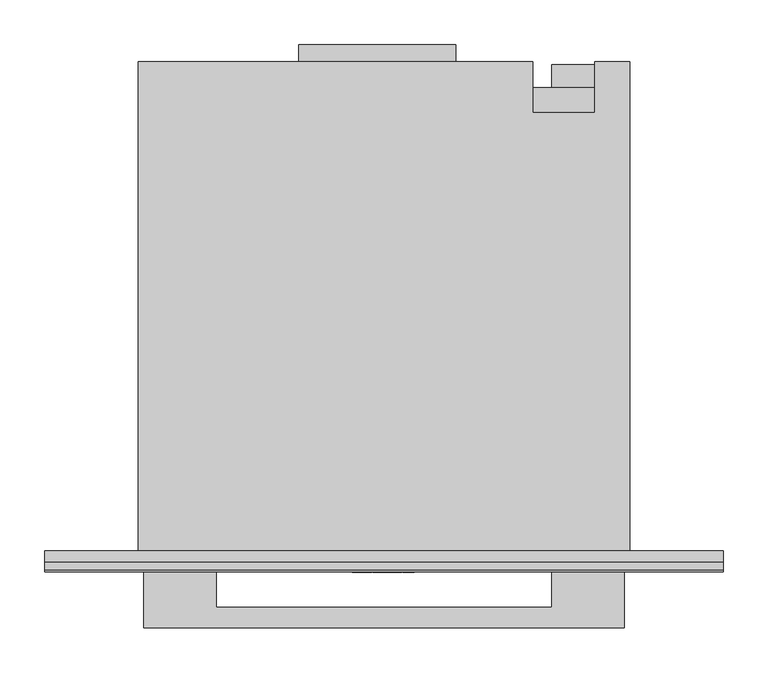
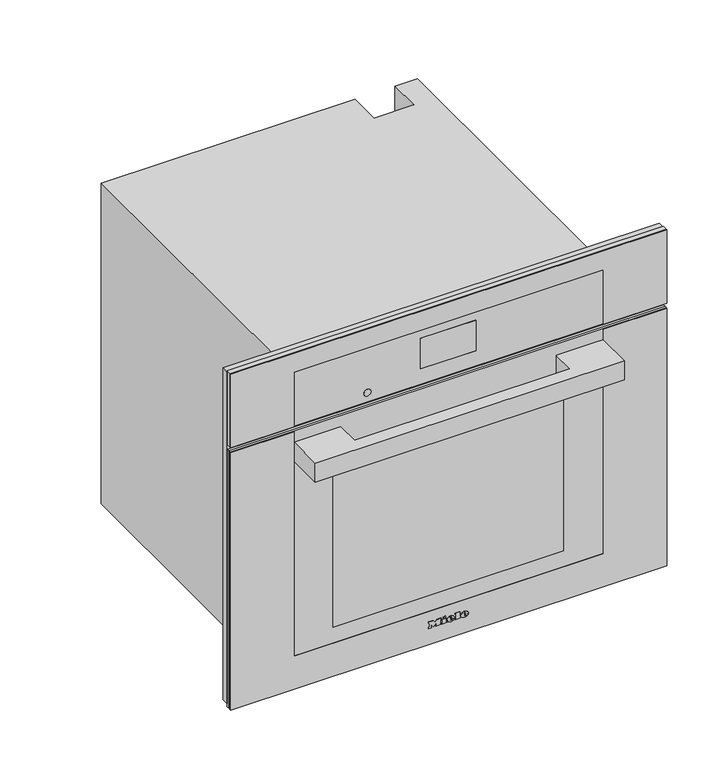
"""IFC4 building model written with IfcOpenShell, lengths in millimetres: proxy geometry, 11876020_USA_DGC7580_EDST-CLST : 23758043_USA_11876020_DGC7580_EDST-CLST."""

from ifc_helpers import new_model, si_unit, point, frame, frame_2d, origin, place, context, project, spatial, polyline, circle_curve, ellipse_curve, trimmed, segment, composite_curve, outline, extrude, faceted_brep, source, transform, mapped, element, save
from ifc_brep_helpers import plane_surface, cylinder_surface, revolved_surface, extruded_surface, advanced_brep


def specialty_equipment_743d4abd(model_context):
    return source(origin(), model_context, "Body", "SolidModel", [
        faceted_brep([(378.5, -13.0, 617.0), (-378.5, -13.0, 617.0), (-378.5, -13.0, 9.0), (-272.5, -13.0, 9.0), (-272.5, -13.0, 485.0), (272.5, -13.0, 485.0), (272.5, -13.0, 9.0), (378.5, -13.0, 9.0), (378.5, 0.0, 617.0), (378.5, 0.0, 9.0), (-378.5, 0.0, 9.0), (-378.5, 0.0, 617.0), (231.0, 0.0, 61.0), (231.0, 0.0, 411.0), (-231.0, 0.0, 411.0), (-231.0, 0.0, 61.0), (272.5, -5.0, 9.0), (-272.5, -5.0, 9.0), (-272.5, -5.0, 485.0), (272.5, -5.0, 485.0), (231.0, -5.0, 411.0), (231.0, -5.0, 61.0), (-231.0, -5.0, 61.0), (-231.0, -5.0, 411.0)], [[[0, 1, 2, 3, 4, 5, 6, 7]], [[8, 9, 10, 11], [12, 13, 14, 15]], [[1, 0, 8, 11]], [[2, 1, 11, 10]], [[10, 9, 7, 6, 16, 17, 3, 2]], [[0, 7, 9, 8]], [[18, 19, 5, 4]], [[18, 4, 3, 17]], [[5, 19, 16, 6]], [[19, 18, 17, 16], [20, 21, 22, 23]], [[20, 13, 12, 21]], [[21, 12, 15, 22]], [[22, 15, 14, 23]], [[13, 20, 23, 14]]]),
        extrude(outline(polyline([(-95.0, 565.0), (80.0, 565.0), (80.0, 546.0), (-95.0, 546.0), (-95.0, 565.0)])), frame((0.0, 0.0, 311.0), z_axis=(0.0, 0.0, 1.0), x_axis=(1.0, 0.0, 0.0)), (0.0, 0.0, 1.0), 1.0),
        extrude(outline(polyline([(218.8383288, 522.0), (225.1236409, 522.0), (225.1236409, 511.9492425), (223.8571792, 511.9492425), (223.8571792, 520.7409796), (218.8383288, 520.7409796), (218.8383288, 522.0)])), frame((0.0, 0.0, 272.0), z_axis=(0.0, 0.0, 1.0), x_axis=(1.0, 0.0, 0.0)), (0.0, 0.0, 1.0), 1.0),
        extrude(outline(polyline([(227.0, 522.0), (234.3797826, 522.0), (234.3797826, 511.9503529), (227.15422, 511.9503529), (227.15422, 513.220938), (233.1355215, 513.220938), (233.1355215, 516.1975645), (227.4863097, 516.1975645), (227.4863097, 517.449242), (233.1355215, 517.449242), (233.1355215, 520.7448633), (227.0, 520.7448633), (227.0, 522.0)])), frame((0.0, 0.0, 272.0), z_axis=(0.0, 0.0, 1.0), x_axis=(1.0, 0.0, 0.0)), (0.0, 0.0, 1.0), 1.0),
        extrude(outline(composite_curve([segment(trimmed(circle_curve(frame_2d((227.0, 517.0)), 7.5), [point((219.5, 517.0))], [point((234.5, 517.0))], False, "CARTESIAN"), True, "CONTINUOUS"), segment(trimmed(circle_curve(frame_2d((227.0, 517.0)), 7.5), [point((234.5, 517.0))], [point((219.5, 517.0))], False, "CARTESIAN"), True, "CONTINUOUS")], self_intersect=False)), frame((0.0, 0.0, 273.0), z_axis=(0.0, 0.0, 1.0), x_axis=(1.0, 0.0, 0.0)), (0.0, 0.0, 1.0), 30.0),
        extrude(outline(polyline([(266.0, 517.0), (187.0, 517.0), (187.0, 543.0), (266.0, 543.0), (266.0, 517.0)])), frame((0.0, 0.0, 303.0), z_axis=(0.0, 0.0, 1.0), x_axis=(1.0, 0.0, 0.0)), (0.0, 0.0, 1.0), 111.0),
        faceted_brep([(-274.0, 546.0, 0.0), (-274.0, 546.0, 588.0), (166.0, 546.0, 588.0), (166.0, 546.0, 0.0), (235.0, 546.0, 588.0), (274.0, 546.0, 588.0), (274.0, 546.0, 478.0), (235.0, 546.0, 478.0), (274.0, 0.0, 588.0), (-274.0, 0.0, 588.0), (-274.0, 0.0, 0.0), (274.0, 0.0, 0.0), (231.0, 0.0, 411.0), (231.0, 0.0, 61.0), (-231.0, 0.0, 61.0), (-231.0, 0.0, 411.0), (235.0, 489.0, 588.0), (166.0, 489.0, 588.0), (166.0, 517.0, 0.0), (274.0, 517.0, 0.0), (274.0, 517.0, 478.0), (231.0, 411.0, 411.0), (-231.0, 411.0, 411.0), (-231.0, 411.0, 61.0), (231.0, 411.0, 61.0), (235.0, 489.0, 477.0), (166.0, 489.0, 477.0), (166.0, 517.0, 477.0), (235.0, 517.0, 477.0), (235.0, 517.0, 478.0)], [[[0, 1, 2, 3]], [[4, 5, 6, 7]], [[8, 9, 10, 11], [12, 13, 14, 15]], [[9, 8, 5, 4, 16, 17, 2, 1]], [[1, 0, 10, 9]], [[11, 10, 0, 3, 18, 19]], [[8, 11, 19, 20, 6, 5]], [[21, 22, 23, 24]], [[21, 24, 13, 12]], [[24, 23, 14, 13]], [[23, 22, 15, 14]], [[22, 21, 12, 15]], [[16, 25, 26, 17]], [[17, 26, 27, 18, 3, 2]], [[26, 25, 28, 27]], [[25, 16, 4, 7, 29, 28]], [[29, 20, 19, 18, 27, 28]], [[20, 29, 7, 6]]]),
        advanced_brep(
        [(26.2998, -24.3, 36.7018), (26.2998, -24.3, 37.8532), (33.9264, -24.3, 37.8532), (20.6568, -24.3, 37.8532), (23.7918, -24.3, 34.0), (33.7326, -24.3, 36.7018), (30.2898, -24.3, 36.7018), (27.5766, -24.3, 35.425), (26.2998, -24.3, 39.3124), (26.2998, -24.3, 40.555), (28.2492, -24.3, 40.555), (28.2492, -24.3, 39.3124), (26.2998, -23.3, 36.7018), (27.5766, -23.3, 35.425), (30.2898, -23.3, 36.7018), (33.7326, -23.3, 36.7018), (23.7918, -23.3, 34.0), (20.6568, -23.3, 37.8532), (33.9264, -23.3, 37.8532), (26.2998, -23.3, 37.8532), (26.2998, -23.3, 39.3124), (28.2492, -23.3, 39.3124), (28.2492, -23.3, 40.555), (26.2998, -23.3, 40.555)],
        [
            (0, 1),
            (1, 2),
            (2, 3, ellipse_curve(frame((27.2916, -24.3, 37.8532), z_axis=(0.0, -1.0, 0.0), x_axis=(-1.0, 0.0, 0.0)), 6.6348, 5.4834)),
            (3, 4, circle_curve(frame((25.0686622, -24.3, 38.2408), z_axis=(0.0, -1.0, 0.0), x_axis=(0.0, 0.0, -1.0)), 4.4288556)),
            (4, 5, circle_curve(frame((27.1587808, -24.3, 41.2504), z_axis=(0.0, -1.0, 0.0), x_axis=(0.0, 0.0, -1.0)), 7.9940516)),
            (5, 6),
            (6, 7, circle_curve(frame((28.1338588, -24.3, 37.762), z_axis=(0.0, 1.0, 0.0), x_axis=(0.0, 0.0, -1.0)), 2.4025208)),
            (7, 0, circle_curve(frame((27.5766, -24.3, 36.7018), z_axis=(0.0, 1.0, 0.0), x_axis=(0.0, 0.0, -1.0)), 1.2768)),
            (8, 9),
            (9, 10, circle_curve(frame((27.2745, -24.3, 40.555), z_axis=(0.0, 1.0, 0.0), x_axis=(0.0, 0.0, -1.0)), 0.9747)),
            (10, 11),
            (11, 8),
            (12, 13, circle_curve(frame((27.5766, -23.3, 36.7018), z_axis=(0.0, -1.0, 0.0), x_axis=(0.0, 0.0, -1.0)), 1.2768)),
            (13, 14, circle_curve(frame((28.1338588, -23.3, 37.762), z_axis=(0.0, -1.0, 0.0), x_axis=(0.0, 0.0, -1.0)), 2.4025208)),
            (14, 15),
            (15, 16, circle_curve(frame((27.1587808, -23.3, 41.2504), z_axis=(0.0, 1.0, 0.0), x_axis=(0.0, 0.0, -1.0)), 7.9940516)),
            (16, 17, circle_curve(frame((25.0686622, -23.3, 38.2408), z_axis=(0.0, 1.0, 0.0), x_axis=(0.0, 0.0, -1.0)), 4.4288556)),
            (17, 18, ellipse_curve(frame((27.2916, -23.3, 37.8532), z_axis=(0.0, 1.0, 0.0), x_axis=(-1.0, 0.0, 0.0)), 6.6348, 5.4834)),
            (18, 19),
            (19, 12),
            (20, 21),
            (21, 22),
            (22, 23, circle_curve(frame((27.2745, -23.3, 40.555), z_axis=(0.0, -1.0, 0.0), x_axis=(0.0, 0.0, -1.0)), 0.9747)),
            (23, 20),
            (0, 12),
            (19, 1),
            (18, 2),
            (5, 15),
            (14, 6),
            (17, 3),
            (13, 7),
            (16, 4),
            (8, 20),
            (23, 9),
            (22, 10),
            (21, 11),
        ],
        [
            plane_surface(frame((26.2998, -24.3, 37.8532), z_axis=(0.0, -1.0, 0.0), x_axis=(0.0, 0.0, 1.0))),
            plane_surface(frame((26.2998, -23.3, 37.8532), z_axis=(0.0, 1.0, 0.0), x_axis=(0.0, 0.0, -1.0))),
            plane_surface(frame((26.2998, -24.3, 36.7018), z_axis=(1.0, 0.0, 0.0), x_axis=(0.0, 1.0, 0.0))),
            plane_surface(frame((26.2998, -24.3, 37.8532), z_axis=(0.0, 0.0, -1.0), x_axis=(0.0, 1.0, 0.0))),
            plane_surface(frame((33.7326, -24.3, 36.7018), z_axis=(0.0, 0.0, 1.0), x_axis=(0.0, 1.0, 0.0))),
            extruded_surface(trimmed(ellipse_curve(frame((27.2916, -22.3, 37.8532), z_axis=(0.0, -1.0, 0.0), x_axis=(-1.0, 0.0, 0.0)), 6.6348, 5.4834), [point((33.9264, -22.3, 37.8532))], [point((20.6568, -22.3, 37.8532))], True, "CARTESIAN"), (0.0, -1.0, 0.0), 1.0),
            revolved_surface(polyline([(28.1338588, -23.3, 35.3594792), (28.1338588, -24.3, 35.3594792)]), (28.1338588, -23.3, 37.762), (0.0, 1.0, 0.0)),
            revolved_surface(polyline([(27.5766, -23.3, 35.425), (27.5766, -24.3, 35.425)]), (27.5766, -23.3, 36.7018), (0.0, 1.0, 0.0)),
            cylinder_surface(frame((25.0686622, -23.3, 38.2408), z_axis=(0.0, -1.0, 0.0), x_axis=(0.0, 0.0, -1.0)), 4.4288556),
            cylinder_surface(frame((27.1587808, -23.3, 41.2504), z_axis=(0.0, -1.0, 0.0), x_axis=(0.0, 0.0, -1.0)), 7.9940516),
            plane_surface(frame((26.2998, -24.3, 39.3124), z_axis=(1.0, 0.0, 0.0), x_axis=(0.0, 1.0, 0.0))),
            revolved_surface(polyline([(27.2745, -23.3, 39.5803), (27.2745, -24.3, 39.5803)]), (27.2745, -23.3, 40.555), (0.0, 1.0, 0.0)),
            plane_surface(frame((28.2492, -24.3, 40.555), z_axis=(-1.0, 0.0, 0.0), x_axis=(0.0, 1.0, 0.0))),
            plane_surface(frame((28.2492, -24.3, 39.3124), z_axis=(0.0, 0.0, 1.0), x_axis=(0.0, 1.0, 0.0))),
        ],
        [
            (0, [[1, 2, 3, 4, 5, 6, 7, 8], [9, 10, 11, 12]]),
            (1, [[13, 14, 15, 16, 17, 18, 19, 20], [21, 22, 23, 24]]),
            (2, [[-1, 25, -20, 26]]),
            (3, [[-2, -26, -19, 27]]),
            (4, [[-6, 28, -15, 29]]),
            (5, [[-3, -27, -18, 30]]),
            (6, [[-7, -29, -14, 31]]),
            (7, [[-8, -31, -13, -25]]),
            (8, [[-4, -30, -17, 32]]),
            (9, [[-5, -32, -16, -28]]),
            (10, [[-9, 33, -24, 34]]),
            (11, [[-10, -34, -23, 35]]),
            (12, [[-11, -35, -22, 36]]),
            (13, [[-12, -36, -21, -33]]),
        ],
    ),
        advanced_brep(
        [(2.508, -24.3, 36.7018), (2.508, -24.3, 37.8532), (10.1346, -24.3, 37.8532), (-3.135, -24.3, 37.8532), (0.0, -24.3, 34.0), (9.9408, -24.3, 36.7018), (6.498, -24.3, 36.7018), (3.7848, -24.3, 35.425), (2.508, -24.3, 39.3124), (2.508, -24.3, 40.555), (4.4574, -24.3, 40.555), (4.4574, -24.3, 39.3124), (2.508, -23.3, 36.7018), (3.7848, -23.3, 35.425), (6.498, -23.3, 36.7018), (9.9408, -23.3, 36.7018), (0.0, -23.3, 34.0), (-3.135, -23.3, 37.8532), (10.1346, -23.3, 37.8532), (2.508, -23.3, 37.8532), (2.508, -23.3, 39.3124), (4.4574, -23.3, 39.3124), (4.4574, -23.3, 40.555), (2.508, -23.3, 40.555)],
        [
            (0, 1),
            (1, 2),
            (2, 3, ellipse_curve(frame((3.4998, -24.3, 37.8532), z_axis=(0.0, -1.0, 0.0), x_axis=(-1.0, 0.0, 0.0)), 6.6348, 5.4834)),
            (3, 4, circle_curve(frame((1.2768622, -24.3, 38.2408), z_axis=(0.0, -1.0, 0.0), x_axis=(0.0, 0.0, -1.0)), 4.4288556)),
            (4, 5, circle_curve(frame((3.3669808, -24.3, 41.2504), z_axis=(0.0, -1.0, 0.0), x_axis=(0.0, 0.0, -1.0)), 7.9940516)),
            (5, 6),
            (6, 7, circle_curve(frame((4.3420588, -24.3, 37.762), z_axis=(0.0, 1.0, 0.0), x_axis=(0.0, 0.0, -1.0)), 2.4025208)),
            (7, 0, circle_curve(frame((3.7848, -24.3, 36.7018), z_axis=(0.0, 1.0, 0.0), x_axis=(0.0, 0.0, -1.0)), 1.2768)),
            (8, 9),
            (9, 10, circle_curve(frame((3.4827, -24.3, 40.555), z_axis=(0.0, 1.0, 0.0), x_axis=(0.0, 0.0, -1.0)), 0.9747)),
            (10, 11),
            (11, 8),
            (12, 13, circle_curve(frame((3.7848, -23.3, 36.7018), z_axis=(0.0, -1.0, 0.0), x_axis=(0.0, 0.0, -1.0)), 1.2768)),
            (13, 14, circle_curve(frame((4.3420588, -23.3, 37.762), z_axis=(0.0, -1.0, 0.0), x_axis=(0.0, 0.0, -1.0)), 2.4025208)),
            (14, 15),
            (15, 16, circle_curve(frame((3.3669808, -23.3, 41.2504), z_axis=(0.0, 1.0, 0.0), x_axis=(0.0, 0.0, -1.0)), 7.9940516)),
            (16, 17, circle_curve(frame((1.2768622, -23.3, 38.2408), z_axis=(0.0, 1.0, 0.0), x_axis=(0.0, 0.0, -1.0)), 4.4288556)),
            (17, 18, ellipse_curve(frame((3.4998, -23.3, 37.8532), z_axis=(0.0, 1.0, 0.0), x_axis=(-1.0, 0.0, 0.0)), 6.6348, 5.4834)),
            (18, 19),
            (19, 12),
            (20, 21),
            (21, 22),
            (22, 23, circle_curve(frame((3.4827, -23.3, 40.555), z_axis=(0.0, -1.0, 0.0), x_axis=(0.0, 0.0, -1.0)), 0.9747)),
            (23, 20),
            (0, 12),
            (19, 1),
            (18, 2),
            (5, 15),
            (14, 6),
            (17, 3),
            (13, 7),
            (16, 4),
            (8, 20),
            (23, 9),
            (22, 10),
            (21, 11),
        ],
        [
            plane_surface(frame((2.508, -24.3, 37.8532), z_axis=(0.0, -1.0, 0.0), x_axis=(0.0, 0.0, 1.0))),
            plane_surface(frame((2.508, -23.3, 37.8532), z_axis=(0.0, 1.0, 0.0), x_axis=(0.0, 0.0, -1.0))),
            plane_surface(frame((2.508, -24.3, 36.7018), z_axis=(1.0, 0.0, 0.0), x_axis=(0.0, 1.0, 0.0))),
            plane_surface(frame((2.508, -24.3, 37.8532), z_axis=(0.0, 0.0, -1.0), x_axis=(0.0, 1.0, 0.0))),
            plane_surface(frame((9.9408, -24.3, 36.7018), z_axis=(0.0, 0.0, 1.0), x_axis=(0.0, 1.0, 0.0))),
            extruded_surface(trimmed(ellipse_curve(frame((3.4998, -22.3, 37.8532), z_axis=(0.0, -1.0, 0.0), x_axis=(-1.0, 0.0, 0.0)), 6.6348, 5.4834), [point((10.1346, -22.3, 37.8532))], [point((-3.135, -22.3, 37.8532))], True, "CARTESIAN"), (0.0, -1.0, 0.0), 1.0),
            revolved_surface(polyline([(4.3420588, -23.3, 35.3594792), (4.3420588, -24.3, 35.3594792)]), (4.3420588, -23.3, 37.762), (0.0, 1.0, 0.0)),
            revolved_surface(polyline([(3.7848, -23.3, 35.425), (3.7848, -24.3, 35.425)]), (3.7848, -23.3, 36.7018), (0.0, 1.0, 0.0)),
            cylinder_surface(frame((1.2768622, -23.3, 38.2408), z_axis=(0.0, -1.0, 0.0), x_axis=(0.0, 0.0, -1.0)), 4.4288556),
            cylinder_surface(frame((3.3669808, -23.3, 41.2504), z_axis=(0.0, -1.0, 0.0), x_axis=(0.0, 0.0, -1.0)), 7.9940516),
            plane_surface(frame((2.508, -24.3, 39.3124), z_axis=(1.0, 0.0, 0.0), x_axis=(0.0, 1.0, 0.0))),
            revolved_surface(polyline([(3.4827, -23.3, 39.5803), (3.4827, -24.3, 39.5803)]), (3.4827, -23.3, 40.555), (0.0, 1.0, 0.0)),
            plane_surface(frame((4.4574, -24.3, 40.555), z_axis=(-1.0, 0.0, 0.0), x_axis=(0.0, 1.0, 0.0))),
            plane_surface(frame((4.4574, -24.3, 39.3124), z_axis=(0.0, 0.0, 1.0), x_axis=(0.0, 1.0, 0.0))),
        ],
        [
            (0, [[1, 2, 3, 4, 5, 6, 7, 8], [9, 10, 11, 12]]),
            (1, [[13, 14, 15, 16, 17, 18, 19, 20], [21, 22, 23, 24]]),
            (2, [[-1, 25, -20, 26]]),
            (3, [[-2, -26, -19, 27]]),
            (4, [[-6, 28, -15, 29]]),
            (5, [[-3, -27, -18, 30]]),
            (6, [[-7, -29, -14, 31]]),
            (7, [[-8, -31, -13, -25]]),
            (8, [[-4, -30, -17, 32]]),
            (9, [[-5, -32, -16, -28]]),
            (10, [[-9, 33, -24, 34]]),
            (11, [[-10, -34, -23, 35]]),
            (12, [[-11, -35, -22, 36]]),
            (13, [[-12, -36, -21, -33]]),
        ],
    ),
        extrude(outline(polyline([(44.7274, -9.9522), (42.8806, -9.0858), (44.6818, -5.2212), (46.5286, -6.0762), (44.7274, -9.9522)])), frame((0.0, -24.3, 0.0), z_axis=(0.0, 1.0, 0.0), x_axis=(0.0, 0.0, 1.0)), (0.0, 0.0, 1.0), 1.0),
        extrude(outline(polyline([(42.6298, -12.768), (40.5892, -12.768), (40.5892, -11.4114), (35.9152, -11.4114), (35.9152, -12.768), (34.0, -12.768), (34.0, -3.7734), (35.9152, -3.7734), (35.9152, -5.0958), (42.6298, -5.0958), (42.6298, -12.768)])), frame((0.0, -24.3, 0.0), z_axis=(0.0, 1.0, 0.0), x_axis=(0.0, 0.0, 1.0)), (0.0, 0.0, 1.0), 1.0),
        extrude(outline(polyline([(43.5418, 10.773), (43.5418, 12.141), (35.9152, 12.141), (35.9152, 10.773), (34.0, 10.773), (34.0, 20.0184), (35.9152, 20.0184), (35.9152, 18.6162), (45.4, 18.6162), (45.4, 10.773), (43.5418, 10.773)])), frame((0.0, -24.3, 0.0), z_axis=(0.0, 1.0, 0.0), x_axis=(0.0, 0.0, 1.0)), (0.0, 0.0, 1.0), 1.0),
        extrude(outline(polyline([(43.5418, -35.4882), (43.5418, -34.1088), (35.9152, -34.1088), (35.9152, -35.4882), (34.0, -35.4882), (34.0, -30.4722), (35.9152, -30.4722), (35.9152, -31.8402), (40.7429247, -31.8402), (34.0, -26.7444), (40.9402223, -21.6258), (35.9152, -21.6258), (35.9152, -23.028), (34.0, -23.028), (34.0, -13.9308), (35.9152, -13.9308), (35.9152, -15.3786), (43.5418, -15.3786), (43.5418, -13.9308), (45.4, -13.9308), (45.4, -20.8734), (41.125, -24.2022), (45.4, -27.5424), (45.4, -35.4882), (43.5418, -35.4882)])), frame((0.0, -24.3, 0.0), z_axis=(0.0, 1.0, 0.0), x_axis=(0.0, 0.0, 1.0)), (0.0, 0.0, 1.0), 1.0),
        extrude(outline(composite_curve([segment(trimmed(circle_curve(frame_2d((502.0, -140.5745637)), 6.0), [point((502.0, -146.5745637))], [point((502.0, -134.5745637))], False, "CARTESIAN"), True, "CONTINUOUS"), segment(trimmed(circle_curve(frame_2d((502.0, -140.5745637)), 6.0), [point((502.0, -134.5745637))], [point((502.0, -146.5745637))], False, "CARTESIAN"), True, "CONTINUOUS")], self_intersect=False)), frame((0.0, -22.5, 0.0), z_axis=(0.0, 1.0, 0.0), x_axis=(0.0, 0.0, 1.0)), (0.0, 0.0, 1.0), 1.0),
        extrude(outline(polyline([(485.0, -268.5), (585.0, -268.5), (585.0, 268.5), (485.0, 268.5), (485.0, 378.5), (620.0, 378.5), (620.0, -378.5), (485.0, -378.5), (485.0, -268.5)])), frame((0.0, -23.3, 0.0), z_axis=(0.0, 1.0, 0.0), x_axis=(0.0, 0.0, 1.0)), (0.0, 0.0, 1.0), 1.3),
        extrude(outline(polyline([(-48.0, -21.0), (48.0, -21.0), (48.0, -22.0), (-48.0, -22.0), (-48.0, -21.0)])), frame((0.0, 0.0, 513.0), z_axis=(0.0, 0.0, 1.0), x_axis=(1.0, 0.0, 0.0)), (0.0, 0.0, 1.0), 56.0),
        faceted_brep([(378.5, -22.0, 620.0), (-378.5, -22.0, 620.0), (-378.5, -22.0, 485.0), (378.5, -22.0, 485.0), (48.0, -22.0, 569.0), (48.0, -22.0, 513.0), (-48.0, -22.0, 513.0), (-48.0, -22.0, 569.0), (378.5, -13.0, 620.0), (378.5, -13.0, 485.0), (-378.5, -13.0, 485.0), (-378.5, -13.0, 620.0), (48.0, -21.0, 569.0), (-48.0, -21.0, 569.0), (-48.0, -21.0, 513.0), (48.0, -21.0, 513.0)], [[[0, 1, 2, 3], [4, 5, 6, 7]], [[8, 9, 10, 11]], [[1, 0, 8, 11]], [[2, 1, 11, 10]], [[3, 2, 10, 9]], [[0, 3, 9, 8]], [[12, 13, 14, 15]], [[12, 15, 5, 4]], [[15, 14, 6, 5]], [[14, 13, 7, 6]], [[13, 12, 4, 7]]]),
        extrude(outline(polyline([(200.0, -22.0), (-200.0, -22.0), (-200.0, -18.0), (200.0, -18.0), (200.0, -22.0)])), frame((0.0, 0.0, 92.5), z_axis=(0.0, 0.0, 1.0), x_axis=(1.0, 0.0, 0.0)), (0.0, 0.0, 1.0), 300.0),
        extrude(outline(polyline([(476.0, 378.5), (476.0, -378.5), (4.0, -378.5), (4.0, 378.5), (476.0, 378.5)]), holes=[polyline([(392.5, -200.0), (392.5, 200.0), (92.5, 200.0), (92.5, -200.0), (392.5, -200.0)])]), frame((0.0, -22.0, 0.0), z_axis=(0.0, 1.0, 0.0), x_axis=(0.0, 0.0, 1.0)), (0.0, 0.0, 1.0), 4.0),
        extrude(outline(polyline([(-187.0, -22.0), (-187.0, -63.3), (187.0, -63.3), (187.0, -22.0), (268.0, -22.0), (268.0, -86.3), (-268.0, -86.3), (-268.0, -22.0), (-187.0, -22.0)])), frame((0.0, 0.0, 421.0), z_axis=(0.0, 0.0, 1.0), x_axis=(1.0, 0.0, 0.0)), (0.0, 0.0, 1.0), 35.0),
        extrude(outline(polyline([(476.0, -378.5), (4.0, -378.5), (4.0, 378.5), (476.0, 378.5), (476.0, 268.5), (64.0, 268.5), (64.0, -268.5), (476.0, -268.5), (476.0, -378.5)])), frame((0.0, -23.3, 0.0), z_axis=(0.0, 1.0, 0.0), x_axis=(0.0, 0.0, 1.0)), (0.0, 0.0, 1.0), 1.3),
        extrude(outline(polyline([(378.5, -18.0), (-378.5, -18.0), (-378.5, -13.0), (378.5, -13.0), (378.5, -18.0)])), frame((0.0, 0.0, 4.0), z_axis=(0.0, 0.0, 1.0), x_axis=(1.0, 0.0, 0.0)), (0.0, 0.0, 1.0), 472.0),
    ])


if __name__ == "__main__":
    model = new_model("IFC4")
    model_context = context("Model", 3, world=origin())
    ifc_project = project(units=[si_unit("LENGTHUNIT", "METRE", prefix="MILLI")], contexts=[model_context])
    site = spatial("IfcSite", under=ifc_project)
    building = spatial("IfcBuilding", under=site)
    placement = place(None, origin())
    specialty_equipment_shape = specialty_equipment_743d4abd(model_context)
    element("IfcBuildingElementProxy", 1, Name="11876020_USA_DGC7580_EDST-CLST : 23758043_USA_11876020_DGC7580_EDST-CLST", ObjectType="11876020_USA_DGC7580_EDST-CLST : 23758043_USA_11876020_DGC7580_EDST-CLST", at=placement, inside=building, context=model_context, shape_type="MappedRepresentation", body=[
        mapped(specialty_equipment_shape, transform((0.0, 0.0, 0.0), x_axis=(1.0, 0.0, 0.0), y_axis=(0.0, 1.0, 0.0), z_axis=(0.0, 0.0, 1.0))),
    ])
    save(model, "model.ifc")
